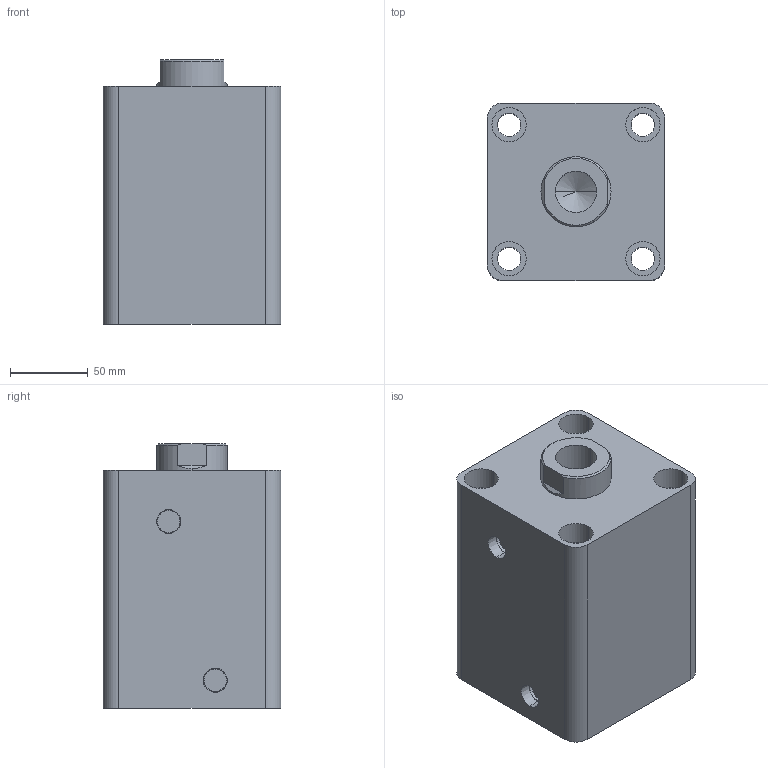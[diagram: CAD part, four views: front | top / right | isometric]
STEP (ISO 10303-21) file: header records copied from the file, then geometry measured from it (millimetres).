
FILE_DESCRIPTION (( 'STEP AP203' ), '1' );
FILE_NAME ('HTB-SD80-75N.STEP', '2019-10-07T08:33:22', ( '微软用户' ), ( '微软中国' ), 'SwSTEP 2.0', 'SolidWorks 2012', '' );
FILE_SCHEMA (( 'CONFIG_CONTROL_DESIGN' ));
Length unit declared in the file: millimetre
Products named in the file (3): HTB-SD80-75N; HTB-SD80-75N活塞杆; HTB-SD80-75掛极
Assembly tree (2 placements, depth 2):
  HTB-SD80-75N
    HTB-SD80-75掛极
    HTB-SD80-75N活塞杆
Bounding box: 114 x 114 x 170 mm (x, y, z)
Volume: 1586750.3 mm3; surface area: 200043.9 mm2
Topology: 2 solids, 2 shells, 83 faces, 184 edges, 119 vertices
Faces by surface type: cylinder 42, plane 27, cone 8, torus 6
Entity records: 2655 total; most frequent: DIRECTION 456, CARTESIAN_POINT 417, ORIENTED_EDGE 364, AXIS2_PLACEMENT_3D 194, EDGE_CURVE 182, VERTEX_POINT 119, EDGE_LOOP 107, CIRCLE 106
